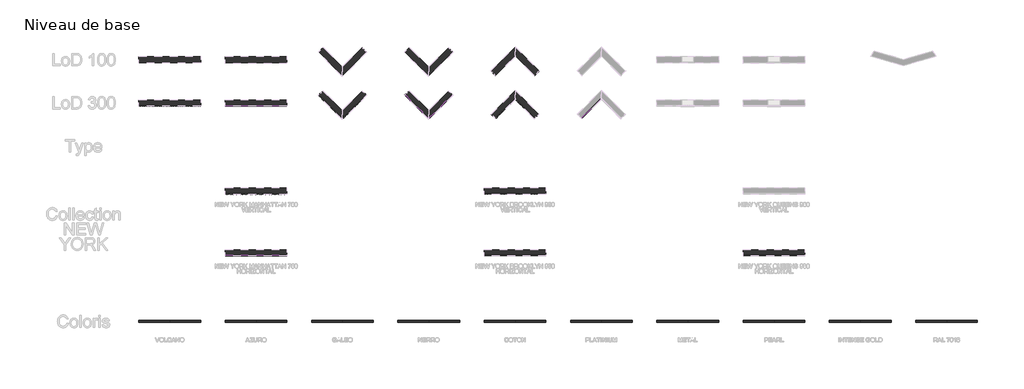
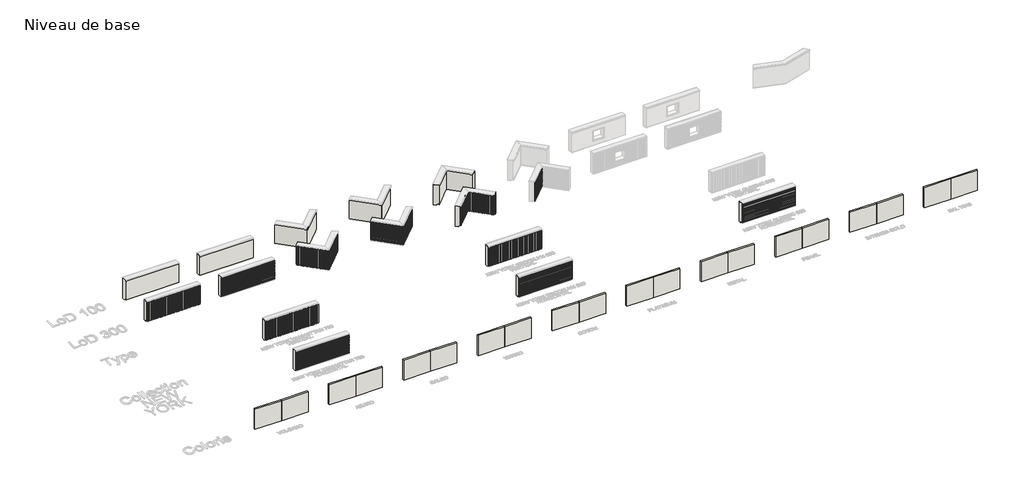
# One storey, part 1 of 12: 53 plates, 41 walls, 5 members.
"""IFC4 building model written with IfcOpenShell, lengths in millimetres."""

from ifc_helpers import new_model, si_unit, frame, origin, origin_with_axes, place, context, project, spatial, polyline, outline, extrude, faceted_brep, transform, mapped, element, save
from components import member_5640643a, member_f168e29d, member_682194e8, member_29dbe2e3, plate_ef704b0c, plate_e0caeaf7, plate_b1030144, plate_45eb5c23, plate_f3eb326f, plate_8cca460b, plate_1524a55d, plate_cfa7d90c, plate_ebf6ff52, plate_a7e1d6f4, plate_c92b519c, plate_d6473f5a, plate_74e9e570, plate_ab7f808c, plate_6982e660, plate_b545cc7a, plate_791323b8, plate_855ca4f3

model = new_model("IFC4")

# Units and contexts
model_context = context("Model", 3, world=origin())
ifc_project = project(units=[si_unit("LENGTHUNIT", "METRE", prefix="MILLI")], contexts=[model_context])

# Site, building, storey
site = spatial("IfcSite", under=ifc_project)
building = spatial("IfcBuilding", under=site)
storey = spatial("IfcBuildingStorey", under=building, Name="Niveau de base", Elevation=0.0)

# Members
placement = place(None, origin())
member_shape = member_5640643a(model_context)
element("IfcMember", 1, ObjectType="Meneau d'angle en L : ATELIERS 3S_Angle sortant", at=placement, inside=storey, context=model_context, shape_type="MappedRepresentation", body=[
    mapped(member_shape, transform((-10442.9704237, 40009.4162142, 100.0), x_axis=(0.7071067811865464, -0.7071067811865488, 0.0), y_axis=(-0.7071067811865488, -0.7071067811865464, 0.0), z_axis=(0.0, 0.0, -1.0))),
])
member_2_shape = member_f168e29d(model_context)
element("IfcMember", 2, ObjectType="Meneau d'angle en L : ATELIERS 3S_Angle rentrant", at=placement, inside=storey, context=model_context, shape_type="MappedRepresentation", body=[
    mapped(member_2_shape, transform((3557.0295763, 41631.1656168, 100.0), x_axis=(0.7071067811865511, 0.707106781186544, 0.0), y_axis=(0.707106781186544, -0.7071067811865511, 0.0), z_axis=(0.0, 0.0, -1.0))),
])
member_3_shape = member_682194e8(model_context)
element("IfcMember", 3, ObjectType="Meneau d'angle en L : ATELIERS 3S_Angle sortant", at=placement, inside=storey, context=model_context, shape_type="MappedRepresentation", body=[
    mapped(member_3_shape, transform((-3442.9704237, 40009.4162142, 2000.0), x_axis=(-0.7071067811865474, -0.7071067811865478, 0.0), y_axis=(0.7071067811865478, -0.7071067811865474, 0.0), z_axis=(0.0, 0.0, 1.0))),
])
member_4_shape = member_29dbe2e3(model_context)
element("IfcMember", 4, ObjectType="Meneau d'angle en L : ATELIERS 3S_Angle sortant", at=placement, inside=storey, context=model_context, shape_type="MappedRepresentation", body=[
    mapped(member_4_shape, transform((-3442.9704237, 40009.4162142, 1660.0), x_axis=(-0.7071067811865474, -0.7071067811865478, 0.0), y_axis=(0.7071067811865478, -0.7071067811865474, 0.0), z_axis=(0.0, 0.0, 1.0))),
])
element("IfcMember", 5, ObjectType="Meneau d'angle en L : ATELIERS 3S_Angle sortant", at=placement, inside=storey, context=model_context, shape_type="MappedRepresentation", body=[
    mapped(member_4_shape, transform((-3442.9704237, 40009.4162142, 880.0), x_axis=(-0.7071067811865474, -0.7071067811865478, 0.0), y_axis=(0.7071067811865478, -0.7071067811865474, 0.0), z_axis=(0.0, 0.0, 1.0))),
])

# Plates
plate_shape = plate_ef704b0c(model_context)
element("IfcPlate", 6, ObjectType="ATELIERS 3S_NEW YORK BROOKLYN 950_HORIZONTAL : AZURO", at=placement, inside=storey, context=model_context, shape_type="MappedRepresentation", body=[
    mapped(plate_shape, transform((3557.0295763, 28905.7785953, 100.0), x_axis=(1.0, 0.0, 0.0), y_axis=(0.0, 1.0, 0.0), z_axis=(0.0, 0.0, 1.0))),
])
element("IfcPlate", 7, ObjectType="ATELIERS 3S_NEW YORK BROOKLYN 950_HORIZONTAL : AZURO", at=placement, inside=storey, context=model_context, shape_type="MappedRepresentation", body=[
    mapped(plate_shape, transform((3557.0295763, 28905.7785953, 1050.0), x_axis=(1.0, 0.0, 0.0), y_axis=(0.0, 1.0, 0.0), z_axis=(0.0, 0.0, 1.0))),
])
plate_2_shape = plate_e0caeaf7(model_context)
element("IfcPlate", 8, ObjectType="ATELIERS 3S_NEW YORK BROOKLYN 950_VERTICAL : AZURO", at=placement, inside=storey, context=model_context, shape_type="MappedRepresentation", body=[
    mapped(plate_2_shape, transform((1532.0295764, 33905.7785953, 100.0), x_axis=(1.0, 0.0, 0.0), y_axis=(0.0, 1.0, 0.0), z_axis=(0.0, 0.0, 1.0))),
])
element("IfcPlate", 9, ObjectType="ATELIERS 3S_NEW YORK BROOKLYN 950_VERTICAL : AZURO", at=placement, inside=storey, context=model_context, shape_type="MappedRepresentation", body=[
    mapped(plate_2_shape, transform((2482.0295766, 33905.7785953, 100.0), x_axis=(1.0, 0.0, 0.0), y_axis=(0.0, 1.0, 0.0), z_axis=(0.0, 0.0, 1.0))),
])
element("IfcPlate", 10, ObjectType="ATELIERS 3S_NEW YORK BROOKLYN 950_VERTICAL : AZURO", at=placement, inside=storey, context=model_context, shape_type="MappedRepresentation", body=[
    mapped(plate_2_shape, transform((3432.0295766, 33905.7785953, 100.0), x_axis=(1.0, 0.0, 0.0), y_axis=(0.0, 1.0, 0.0), z_axis=(0.0, 0.0, 1.0))),
])
element("IfcPlate", 11, ObjectType="ATELIERS 3S_NEW YORK BROOKLYN 950_VERTICAL : AZURO", at=placement, inside=storey, context=model_context, shape_type="MappedRepresentation", body=[
    mapped(plate_2_shape, transform((4382.0295766, 33905.7785953, 100.0), x_axis=(1.0, 0.0, 0.0), y_axis=(0.0, 1.0, 0.0), z_axis=(0.0, 0.0, 1.0))),
])
element("IfcPlate", 12, ObjectType="ATELIERS 3S_NEW YORK BROOKLYN 950_VERTICAL : AZURO", at=placement, inside=storey, context=model_context, shape_type="MappedRepresentation", body=[
    mapped(plate_2_shape, transform((5332.0295766, 33905.7785953, 100.0), x_axis=(1.0, 0.0, 0.0), y_axis=(0.0, 1.0, 0.0), z_axis=(0.0, 0.0, 1.0))),
])
plate_3_shape = plate_b1030144(model_context)
element("IfcPlate", 13, ObjectType="ATELIERS 3S_NEW YORK BROOKLYN 950_VERTICAL : AZURO", at=placement, inside=storey, context=model_context, shape_type="MappedRepresentation", body=[
    mapped(plate_3_shape, transform((5932.0295764, 33905.7785953, 100.0), x_axis=(1.0, 0.0, 0.0), y_axis=(0.0, 1.0, 0.0), z_axis=(0.0, 0.0, 1.0))),
])
plate_4_shape = plate_45eb5c23(model_context)
element("IfcPlate", 14, ObjectType="ATELIERS 3S_NEW YORK MANHATTAN 780_HORIZONTAL : AZURO", at=placement, inside=storey, context=model_context, shape_type="MappedRepresentation", body=[
    mapped(plate_4_shape, transform((-17442.9704237, 41055.7785953, 100.0), x_axis=(1.0, 0.0, 0.0), y_axis=(0.0, 1.0, 0.0), z_axis=(0.0, 0.0, 1.0))),
])
element("IfcPlate", 15, ObjectType="ATELIERS 3S_NEW YORK MANHATTAN 780_HORIZONTAL : AZURO", at=placement, inside=storey, context=model_context, shape_type="MappedRepresentation", body=[
    mapped(plate_4_shape, transform((-17442.9704237, 28905.7785953, 100.0), x_axis=(1.0, 0.0, 0.0), y_axis=(0.0, 1.0, 0.0), z_axis=(0.0, 0.0, 1.0))),
])
element("IfcPlate", 16, ObjectType="ATELIERS 3S_NEW YORK MANHATTAN 780_HORIZONTAL : AZURO", at=placement, inside=storey, context=model_context, shape_type="MappedRepresentation", body=[
    mapped(plate_4_shape, transform((-17442.9704237, 41055.7785953, 880.0), x_axis=(1.0, 0.0, 0.0), y_axis=(0.0, 1.0, 0.0), z_axis=(0.0, 0.0, 1.0))),
])
element("IfcPlate", 17, ObjectType="ATELIERS 3S_NEW YORK MANHATTAN 780_HORIZONTAL : AZURO", at=placement, inside=storey, context=model_context, shape_type="MappedRepresentation", body=[
    mapped(plate_4_shape, transform((-17442.9704237, 28905.7785953, 880.0), x_axis=(1.0, 0.0, 0.0), y_axis=(0.0, 1.0, 0.0), z_axis=(0.0, 0.0, 1.0))),
])
plate_5_shape = plate_f3eb326f(model_context)
element("IfcPlate", 18, ObjectType="ATELIERS 3S_NEW YORK MANHATTAN 780_HORIZONTAL : AZURO", at=placement, inside=storey, context=model_context, shape_type="MappedRepresentation", body=[
    mapped(plate_5_shape, transform((-4407.4640733, 40973.9098637, 100.0), x_axis=(0.7071067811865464, -0.7071067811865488, 0.0), y_axis=(0.7071067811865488, 0.7071067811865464, 0.0), z_axis=(0.0, 0.0, 1.0))),
])
element("IfcPlate", 19, ObjectType="ATELIERS 3S_NEW YORK MANHATTAN 780_HORIZONTAL : AZURO", at=placement, inside=storey, context=model_context, shape_type="MappedRepresentation", body=[
    mapped(plate_5_shape, transform((-4407.4640733, 40973.9098637, 880.0), x_axis=(0.7071067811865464, -0.7071067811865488, 0.0), y_axis=(0.7071067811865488, 0.7071067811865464, 0.0), z_axis=(0.0, 0.0, 1.0))),
])
plate_6_shape = plate_8cca460b(model_context)
element("IfcPlate", 20, ObjectType="ATELIERS 3S_NEW YORK MANHATTAN 780_HORIZONTAL : AZURO", at=placement, inside=storey, context=model_context, shape_type="MappedRepresentation", body=[
    mapped(plate_6_shape, transform((-2481.8355314, 40970.5511065, 100.0), x_axis=(0.7071067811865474, 0.7071067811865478, 0.0), y_axis=(-0.7071067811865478, 0.7071067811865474, 0.0), z_axis=(0.0, 0.0, 1.0))),
])
element("IfcPlate", 21, ObjectType="ATELIERS 3S_NEW YORK MANHATTAN 780_HORIZONTAL : AZURO", at=placement, inside=storey, context=model_context, shape_type="MappedRepresentation", body=[
    mapped(plate_6_shape, transform((-2481.8355314, 40970.5511065, 880.0), x_axis=(0.7071067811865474, 0.7071067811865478, 0.0), y_axis=(-0.7071067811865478, 0.7071067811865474, 0.0), z_axis=(0.0, 0.0, 1.0))),
])
plate_7_shape = plate_1524a55d(model_context)
element("IfcPlate", 22, ObjectType="ATELIERS 3S_NEW YORK MANHATTAN 780_HORIZONTAL : AZURO", at=placement, inside=storey, context=model_context, shape_type="MappedRepresentation", body=[
    mapped(plate_7_shape, transform((-17442.9704237, 28905.7785953, 1660.0), x_axis=(1.0, 0.0, 0.0), y_axis=(0.0, 1.0, 0.0), z_axis=(0.0, 0.0, 1.0))),
])
element("IfcPlate", 23, ObjectType="ATELIERS 3S_NEW YORK MANHATTAN 780_HORIZONTAL : AZURO", at=placement, inside=storey, context=model_context, shape_type="MappedRepresentation", body=[
    mapped(plate_7_shape, transform((-17442.9704237, 41055.7785953, 1660.0), x_axis=(1.0, 0.0, 0.0), y_axis=(0.0, 1.0, 0.0), z_axis=(0.0, 0.0, 1.0))),
])
plate_8_shape = plate_cfa7d90c(model_context)
element("IfcPlate", 24, ObjectType="ATELIERS 3S_NEW YORK MANHATTAN 780_HORIZONTAL : AZURO", at=placement, inside=storey, context=model_context, shape_type="MappedRepresentation", body=[
    mapped(plate_8_shape, transform((-4407.4640733, 40973.9098637, 1660.0), x_axis=(0.7071067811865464, -0.7071067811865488, 0.0), y_axis=(0.7071067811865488, 0.7071067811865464, 0.0), z_axis=(0.0, 0.0, 1.0))),
])
plate_9_shape = plate_ebf6ff52(model_context)
element("IfcPlate", 25, ObjectType="ATELIERS 3S_NEW YORK MANHATTAN 780_HORIZONTAL : AZURO", at=placement, inside=storey, context=model_context, shape_type="MappedRepresentation", body=[
    mapped(plate_9_shape, transform((-2481.8355314, 40970.5511065, 1660.0), x_axis=(0.7071067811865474, 0.7071067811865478, 0.0), y_axis=(-0.7071067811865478, 0.7071067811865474, 0.0), z_axis=(0.0, 0.0, 1.0))),
])
plate_10_shape = plate_a7e1d6f4(model_context)
element("IfcPlate", 26, ObjectType="ATELIERS 3S_NEW YORK MANHATTAN 780_HORIZONTAL : AZURO", at=placement, inside=storey, context=model_context, shape_type="MappedRepresentation", body=[
    mapped(plate_10_shape, transform((9731.6591859, 40805.7952265, 880.0), x_axis=(0.7071067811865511, 0.707106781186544, 0.0), y_axis=(-0.707106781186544, 0.7071067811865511, 0.0), z_axis=(0.0, 0.0, 1.0))),
])
element("IfcPlate", 27, ObjectType="ATELIERS 3S_NEW YORK MANHATTAN 780_HORIZONTAL : AZURO", at=placement, inside=storey, context=model_context, shape_type="MappedRepresentation", body=[
    mapped(plate_10_shape, transform((9731.6591859, 40805.7952265, 100.0), x_axis=(0.7071067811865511, 0.707106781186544, 0.0), y_axis=(-0.707106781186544, 0.7071067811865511, 0.0), z_axis=(0.0, 0.0, 1.0))),
])
plate_11_shape = plate_c92b519c(model_context)
element("IfcPlate", 28, ObjectType="ATELIERS 3S_NEW YORK MANHATTAN 780_HORIZONTAL : AZURO", at=placement, inside=storey, context=model_context, shape_type="MappedRepresentation", body=[
    mapped(plate_11_shape, transform((9731.6591859, 40805.7952265, 1660.0), x_axis=(0.7071067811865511, 0.707106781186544, 0.0), y_axis=(-0.707106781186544, 0.7071067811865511, 0.0), z_axis=(0.0, 0.0, 1.0))),
])
plate_12_shape = plate_d6473f5a(model_context)
element("IfcPlate", 29, ObjectType="ATELIERS 3S_NEW YORK MANHATTAN 780_VERTICAL : AZURO", at=placement, inside=storey, context=model_context, shape_type="MappedRepresentation", body=[
    mapped(plate_12_shape, transform((-26552.9704236, 41055.7785953, 100.0), x_axis=(1.0, 0.0, 0.0), y_axis=(0.0, 1.0, 0.0), z_axis=(0.0, 0.0, 1.0))),
])
element("IfcPlate", 30, ObjectType="ATELIERS 3S_NEW YORK MANHATTAN 780_VERTICAL : AZURO", at=placement, inside=storey, context=model_context, shape_type="MappedRepresentation", body=[
    mapped(plate_12_shape, transform((-12087.7007967, 41654.1465871, 100.0), x_axis=(0.7071067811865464, -0.7071067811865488, 0.0), y_axis=(0.7071067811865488, 0.7071067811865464, 0.0), z_axis=(0.0, 0.0, 1.0))),
])
element("IfcPlate", 31, ObjectType="ATELIERS 3S_NEW YORK MANHATTAN 780_VERTICAL : AZURO", at=placement, inside=storey, context=model_context, shape_type="MappedRepresentation", body=[
    mapped(plate_12_shape, transform((-10158.7134976, 40293.6731403, 100.0), x_axis=(0.7071067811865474, 0.7071067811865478, 0.0), y_axis=(-0.7071067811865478, 0.7071067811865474, 0.0), z_axis=(0.0, 0.0, 1.0))),
])
element("IfcPlate", 32, ObjectType="ATELIERS 3S_NEW YORK MANHATTAN 780_VERTICAL : AZURO", at=placement, inside=storey, context=model_context, shape_type="MappedRepresentation", body=[
    mapped(plate_12_shape, transform((-11536.1575072, 41102.6032977, 100.0), x_axis=(0.7071067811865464, -0.7071067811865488, 0.0), y_axis=(0.7071067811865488, 0.7071067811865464, 0.0), z_axis=(0.0, 0.0, 1.0))),
])
element("IfcPlate", 33, ObjectType="ATELIERS 3S_NEW YORK MANHATTAN 780_VERTICAL : AZURO", at=placement, inside=storey, context=model_context, shape_type="MappedRepresentation", body=[
    mapped(plate_12_shape, transform((-10984.6142179, 40551.0600084, 100.0), x_axis=(0.7071067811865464, -0.7071067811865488, 0.0), y_axis=(0.7071067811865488, 0.7071067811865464, 0.0), z_axis=(0.0, 0.0, 1.0))),
])
element("IfcPlate", 34, ObjectType="ATELIERS 3S_NEW YORK MANHATTAN 780_VERTICAL : AZURO", at=placement, inside=storey, context=model_context, shape_type="MappedRepresentation", body=[
    mapped(plate_12_shape, transform((-9607.1702081, 40845.2164298, 100.0), x_axis=(0.7071067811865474, 0.7071067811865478, 0.0), y_axis=(-0.7071067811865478, 0.7071067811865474, 0.0), z_axis=(0.0, 0.0, 1.0))),
])
element("IfcPlate", 35, ObjectType="ATELIERS 3S_NEW YORK MANHATTAN 780_VERTICAL : AZURO", at=placement, inside=storey, context=model_context, shape_type="MappedRepresentation", body=[
    mapped(plate_12_shape, transform((2769.3126223, 40843.4486628, 100.0), x_axis=(0.7071067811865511, 0.707106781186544, 0.0), y_axis=(-0.707106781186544, 0.7071067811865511, 0.0), z_axis=(0.0, 0.0, 1.0))),
])
element("IfcPlate", 36, ObjectType="ATELIERS 3S_NEW YORK MANHATTAN 780_VERTICAL : AZURO", at=placement, inside=storey, context=model_context, shape_type="MappedRepresentation", body=[
    mapped(plate_12_shape, transform((4420.0534029, 40768.1417902, 100.0), x_axis=(0.7071067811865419, -0.7071067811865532, 0.0), y_axis=(0.7071067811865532, 0.7071067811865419, 0.0), z_axis=(0.0, 0.0, 1.0))),
])
element("IfcPlate", 37, ObjectType="ATELIERS 3S_NEW YORK MANHATTAN 780_VERTICAL : AZURO", at=placement, inside=storey, context=model_context, shape_type="MappedRepresentation", body=[
    mapped(plate_12_shape, transform((-9055.6269188, 41396.7597191, 100.0), x_axis=(0.7071067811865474, 0.7071067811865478, 0.0), y_axis=(-0.7071067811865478, 0.7071067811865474, 0.0), z_axis=(0.0, 0.0, 1.0))),
])
element("IfcPlate", 38, ObjectType="ATELIERS 3S_NEW YORK MANHATTAN 780_VERTICAL : AZURO", at=placement, inside=storey, context=model_context, shape_type="MappedRepresentation", body=[
    mapped(plate_12_shape, transform((-25772.9704234, 41055.7785953, 100.0), x_axis=(1.0, 0.0, 0.0), y_axis=(0.0, 1.0, 0.0), z_axis=(0.0, 0.0, 1.0))),
])
element("IfcPlate", 39, ObjectType="ATELIERS 3S_NEW YORK MANHATTAN 780_VERTICAL : AZURO", at=placement, inside=storey, context=model_context, shape_type="MappedRepresentation", body=[
    mapped(plate_12_shape, transform((-24992.9704234, 41055.7785953, 100.0), x_axis=(1.0, 0.0, 0.0), y_axis=(0.0, 1.0, 0.0), z_axis=(0.0, 0.0, 1.0))),
])
element("IfcPlate", 40, ObjectType="ATELIERS 3S_NEW YORK MANHATTAN 780_VERTICAL : AZURO", at=placement, inside=storey, context=model_context, shape_type="MappedRepresentation", body=[
    mapped(plate_12_shape, transform((-24212.9704234, 41055.7785953, 100.0), x_axis=(1.0, 0.0, 0.0), y_axis=(0.0, 1.0, 0.0), z_axis=(0.0, 0.0, 1.0))),
])
element("IfcPlate", 41, ObjectType="ATELIERS 3S_NEW YORK MANHATTAN 780_VERTICAL : AZURO", at=placement, inside=storey, context=model_context, shape_type="MappedRepresentation", body=[
    mapped(plate_12_shape, transform((-23432.9704234, 41055.7785953, 100.0), x_axis=(1.0, 0.0, 0.0), y_axis=(0.0, 1.0, 0.0), z_axis=(0.0, 0.0, 1.0))),
])
element("IfcPlate", 42, ObjectType="ATELIERS 3S_NEW YORK MANHATTAN 780_VERTICAL : AZURO", at=placement, inside=storey, context=model_context, shape_type="MappedRepresentation", body=[
    mapped(plate_12_shape, transform((-22652.9704234, 41055.7785953, 100.0), x_axis=(1.0, 0.0, 0.0), y_axis=(0.0, 1.0, 0.0), z_axis=(0.0, 0.0, 1.0))),
])
element("IfcPlate", 43, ObjectType="ATELIERS 3S_NEW YORK MANHATTAN 780_VERTICAL : AZURO", at=placement, inside=storey, context=model_context, shape_type="MappedRepresentation", body=[
    mapped(plate_12_shape, transform((-19552.9704236, 33905.7785953, 100.0), x_axis=(1.0, 0.0, 0.0), y_axis=(0.0, 1.0, 0.0), z_axis=(0.0, 0.0, 1.0))),
])
element("IfcPlate", 44, ObjectType="ATELIERS 3S_NEW YORK MANHATTAN 780_VERTICAL : AZURO", at=placement, inside=storey, context=model_context, shape_type="MappedRepresentation", body=[
    mapped(plate_12_shape, transform((-18772.9704234, 33905.7785953, 100.0), x_axis=(1.0, 0.0, 0.0), y_axis=(0.0, 1.0, 0.0), z_axis=(0.0, 0.0, 1.0))),
])
element("IfcPlate", 45, ObjectType="ATELIERS 3S_NEW YORK MANHATTAN 780_VERTICAL : AZURO", at=placement, inside=storey, context=model_context, shape_type="MappedRepresentation", body=[
    mapped(plate_12_shape, transform((-17992.9704234, 33905.7785953, 100.0), x_axis=(1.0, 0.0, 0.0), y_axis=(0.0, 1.0, 0.0), z_axis=(0.0, 0.0, 1.0))),
])
element("IfcPlate", 46, ObjectType="ATELIERS 3S_NEW YORK MANHATTAN 780_VERTICAL : AZURO", at=placement, inside=storey, context=model_context, shape_type="MappedRepresentation", body=[
    mapped(plate_12_shape, transform((-17212.9704234, 33905.7785953, 100.0), x_axis=(1.0, 0.0, 0.0), y_axis=(0.0, 1.0, 0.0), z_axis=(0.0, 0.0, 1.0))),
])
element("IfcPlate", 47, ObjectType="ATELIERS 3S_NEW YORK MANHATTAN 780_VERTICAL : AZURO", at=placement, inside=storey, context=model_context, shape_type="MappedRepresentation", body=[
    mapped(plate_12_shape, transform((-16432.9704234, 33905.7785953, 100.0), x_axis=(1.0, 0.0, 0.0), y_axis=(0.0, 1.0, 0.0), z_axis=(0.0, 0.0, 1.0))),
])
element("IfcPlate", 48, ObjectType="ATELIERS 3S_NEW YORK MANHATTAN 780_VERTICAL : AZURO", at=placement, inside=storey, context=model_context, shape_type="MappedRepresentation", body=[
    mapped(plate_12_shape, transform((-15652.9704234, 33905.7785953, 100.0), x_axis=(1.0, 0.0, 0.0), y_axis=(0.0, 1.0, 0.0), z_axis=(0.0, 0.0, 1.0))),
])
element("IfcPlate", 49, ObjectType="ATELIERS 3S_NEW YORK MANHATTAN 780_VERTICAL : AZURO", at=placement, inside=storey, context=model_context, shape_type="MappedRepresentation", body=[
    mapped(plate_12_shape, transform((2217.7693328, 40291.9053734, 100.0), x_axis=(0.7071067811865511, 0.707106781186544, 0.0), y_axis=(-0.707106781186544, 0.7071067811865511, 0.0), z_axis=(0.0, 0.0, 1.0))),
])
element("IfcPlate", 50, ObjectType="ATELIERS 3S_NEW YORK MANHATTAN 780_VERTICAL : AZURO", at=placement, inside=storey, context=model_context, shape_type="MappedRepresentation", body=[
    mapped(plate_12_shape, transform((3868.5101135, 41319.6850796, 100.0), x_axis=(0.7071067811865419, -0.7071067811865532, 0.0), y_axis=(0.7071067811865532, 0.7071067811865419, 0.0), z_axis=(0.0, 0.0, 1.0))),
])
plate_13_shape = plate_74e9e570(model_context)
element("IfcPlate", 51, ObjectType="ATELIERS 3S_NEW YORK MANHATTAN 780_VERTICAL : AZURO", at=placement, inside=storey, context=model_context, shape_type="MappedRepresentation", body=[
    mapped(plate_13_shape, transform((-22102.9704236, 41055.7785953, 100.0), x_axis=(1.0, 0.0, 0.0), y_axis=(0.0, 1.0, 0.0), z_axis=(0.0, 0.0, 1.0))),
])
element("IfcPlate", 52, ObjectType="ATELIERS 3S_NEW YORK MANHATTAN 780_VERTICAL : AZURO", at=placement, inside=storey, context=model_context, shape_type="MappedRepresentation", body=[
    mapped(plate_13_shape, transform((-15102.9704236, 33905.7785953, 100.0), x_axis=(1.0, 0.0, 0.0), y_axis=(0.0, 1.0, 0.0), z_axis=(0.0, 0.0, 1.0))),
])
plate_14_shape = plate_ab7f808c(model_context)
element("IfcPlate", 53, ObjectType="ATELIERS 3S_NEW YORK MANHATTAN 780_VERTICAL : AZURO", at=placement, inside=storey, context=model_context, shape_type="MappedRepresentation", body=[
    mapped(plate_14_shape, transform((-10580.1491392, 40146.5949296, 100.0), x_axis=(0.7071067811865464, -0.7071067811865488, 0.0), y_axis=(0.7071067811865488, 0.7071067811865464, 0.0), z_axis=(0.0, 0.0, 1.0))),
])
plate_15_shape = plate_6982e660(model_context)
element("IfcPlate", 54, ObjectType="ATELIERS 3S_NEW YORK MANHATTAN 780_VERTICAL : AZURO", at=placement, inside=storey, context=model_context, shape_type="MappedRepresentation", body=[
    mapped(plate_15_shape, transform((-8654.5205973, 41797.8660406, 100.0), x_axis=(0.7071067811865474, 0.7071067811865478, 0.0), y_axis=(-0.7071067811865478, 0.7071067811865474, 0.0), z_axis=(0.0, 0.0, 1.0))),
])
plate_16_shape = plate_b545cc7a(model_context)
element("IfcPlate", 55, ObjectType="ATELIERS 3S_NEW YORK MANHATTAN 780_VERTICAL : AZURO", at=placement, inside=storey, context=model_context, shape_type="MappedRepresentation", body=[
    mapped(plate_16_shape, transform((3283.2024754, 41357.3385159, 100.0), x_axis=(0.7071067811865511, 0.707106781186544, 0.0), y_axis=(-0.707106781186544, 0.7071067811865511, 0.0), z_axis=(0.0, 0.0, 1.0))),
])
element("IfcPlate", 56, ObjectType="ATELIERS 3S_NEW YORK MANHATTAN 780_VERTICAL : AZURO", at=placement, inside=storey, context=model_context, shape_type="MappedRepresentation", body=[
    mapped(plate_16_shape, transform((4933.9432561, 40254.2519371, 100.0), x_axis=(0.7071067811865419, -0.7071067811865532, 0.0), y_axis=(0.7071067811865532, 0.7071067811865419, 0.0), z_axis=(0.0, 0.0, 1.0))),
])
plate_17_shape = plate_791323b8(model_context)
element("IfcPlate", 57, ObjectType="ATELIERS 3S_NEW YORK QUEENS 980_HORIZONTAL : AZURO", at=placement, inside=storey, context=model_context, shape_type="MappedRepresentation", body=[
    mapped(plate_17_shape, transform((24557.0295763, 28905.7785953, 100.0), x_axis=(1.0, 0.0, 0.0), y_axis=(0.0, 1.0, 0.0), z_axis=(0.0, 0.0, 1.0))),
])
plate_18_shape = plate_855ca4f3(model_context)
element("IfcPlate", 58, ObjectType="ATELIERS 3S_NEW YORK QUEENS 980_HORIZONTAL : AZURO", at=placement, inside=storey, context=model_context, shape_type="MappedRepresentation", body=[
    mapped(plate_18_shape, transform((24557.0295763, 28905.7785953, 1080.0), x_axis=(1.0, 0.0, 0.0), y_axis=(0.0, 1.0, 0.0), z_axis=(0.0, 0.0, 1.0))),
])

# Walls
element("IfcWall", 59, ObjectType="ATELIERS 3S_NEW YORK MANHATTAN 780_VERTICAL_AZURO_LoD 100", at=placement, inside=storey, context=model_context, shape_type="SweptSolid", body=[
    extrude(outline(polyline([(44525.7785953, 100.0), (44525.7785953, 2000.0), (45017.7785953, 2000.0), (45017.7785953, 0.0), (44767.7785953, 0.0), (44767.7785953, 100.0), (44586.7785953, 100.0), (44586.7785953, 130.0), (44585.7785953, 130.0), (44585.7785953, 100.0), (44525.7785953, 100.0)])), frame((-26942.9704237, 0.0, 0.0), z_axis=(1.0, 0.0, 0.0), x_axis=(0.0, 1.0, 0.0)), (0.0, 0.0, 1.0), 5000.0),
])
element("IfcWall", 60, ObjectType="ATELIERS 3S_Mur de base_LoD 300", at=placement, inside=storey, context=model_context, shape_type="Brep", body=[
    faceted_brep([(3557.0295763, 41631.1656168, 2000.0), (1941.9976881, 40016.1337286, 2000.0), (1941.9976881, 40016.1337286, 130.0), (3557.0295763, 41631.1656168, 130.0), (3557.0295763, 42242.1058758, 0.0), (1636.5275586, 40321.6038581, 0.0), (1636.5275586, 40321.6038581, 2000.0), (3557.0295763, 42242.1058758, 2000.0), (1813.3042539, 40144.8271628, 0.0), (1813.3042539, 40144.8271628, 100.0), (1941.2905813, 40016.8408354, 100.0), (1941.2905813, 40016.8408354, 130.0), (3557.0295763, 41632.5798304, 130.0), (3557.0295763, 41632.5798304, 100.0), (3557.0295763, 41888.5524852, 100.0), (3557.0295763, 41888.5524852, 0.0)], [[[0, 1, 2, 3]], [[4, 5, 6, 7]], [[1, 0, 7, 6]], [[6, 5, 8, 9, 10, 11, 2, 1]], [[4, 7, 0, 3, 12, 13, 14, 15]], [[5, 4, 15, 8]], [[9, 8, 15, 14]], [[9, 14, 13, 10]], [[11, 12, 3, 2]], [[12, 11, 10, 13]]]),
])
element("IfcWall", 61, ObjectType="ATELIERS 3S_Mur de base_LoD 300", at=placement, inside=storey, context=model_context, shape_type="Brep", body=[
    faceted_brep([(5172.0614645, 40016.1337286, 2000.0), (3557.0295763, 41631.1656168, 2000.0), (3557.0295763, 41631.1656168, 130.0), (5172.0614645, 40016.1337286, 130.0), (5477.531594, 40321.6038581, 0.0), (3557.0295763, 42242.1058758, 0.0), (3557.0295763, 42242.1058758, 2000.0), (5477.531594, 40321.6038581, 2000.0), (5172.7685713, 40016.8408354, 130.0), (5172.7685713, 40016.8408354, 100.0), (5300.7548987, 40144.8271628, 100.0), (5300.7548987, 40144.8271628, 0.0), (3557.0295763, 41888.5524852, 0.0), (3557.0295763, 41888.5524852, 100.0), (3557.0295763, 41632.5798304, 100.0), (3557.0295763, 41632.5798304, 130.0)], [[[0, 1, 2, 3]], [[4, 5, 6, 7]], [[4, 7, 0, 3, 8, 9, 10, 11]], [[1, 0, 7, 6]], [[1, 6, 5, 12, 13, 14, 15, 2]], [[5, 4, 11, 12]], [[13, 12, 11, 10]], [[13, 10, 9, 14]], [[15, 8, 3, 2]], [[8, 15, 14, 9]]]),
])
element("IfcWall", 62, ObjectType="ATELIERS 3S_NEW YORK MANHATTAN 780_VERTICAL_AZURO_LoD 100", at=placement, inside=storey, context=model_context, shape_type="Brep", body=[
    faceted_brep([(3557.0295763, 45088.73921, 2000.0), (1963.2108915, 43494.9205252, 2000.0), (1963.2108915, 43494.9205252, 100.0), (3557.0295763, 45088.73921, 100.0), (3557.0295763, 45784.5322826, 0.0), (1615.3143551, 43842.8170615, 0.0), (1615.3143551, 43842.8170615, 2000.0), (3557.0295763, 45784.5322826, 2000.0), (1792.0910504, 43666.0403662, 0.0), (1792.0910504, 43666.0403662, 100.0), (1920.0773778, 43538.0540388, 100.0), (1920.0773778, 43538.0540388, 130.0), (1920.7844846, 43537.346932, 130.0), (1920.7844846, 43537.346932, 100.0), (3557.0295763, 45173.5920237, 100.0), (3557.0295763, 45173.5920237, 130.0), (3557.0295763, 45175.0062373, 130.0), (3557.0295763, 45175.0062373, 100.0), (3557.0295763, 45430.9788921, 100.0), (3557.0295763, 45430.9788921, 0.0)], [[[0, 1, 2, 3]], [[4, 5, 6, 7]], [[1, 0, 7, 6]], [[2, 1, 6, 5, 8, 9, 10, 11, 12, 13]], [[0, 3, 14, 15, 16, 17, 18, 19, 4, 7]], [[5, 4, 19, 8]], [[9, 8, 19, 18]], [[3, 2, 13, 14]], [[9, 18, 17, 10]], [[15, 12, 11, 16]], [[16, 11, 10, 17]], [[12, 15, 14, 13]]]),
])
element("IfcWall", 63, ObjectType="ATELIERS 3S_NEW YORK MANHATTAN 780_VERTICAL_AZURO_LoD 100", at=placement, inside=storey, context=model_context, shape_type="Brep", body=[
    faceted_brep([(5150.8482611, 43494.9205252, 100.0), (5150.8482611, 43494.9205252, 2000.0), (3557.0295763, 45088.73921, 2000.0), (3557.0295763, 45088.73921, 100.0), (5498.7447974, 43842.8170615, 0.0), (3557.0295763, 45784.5322826, 0.0), (3557.0295763, 45784.5322826, 2000.0), (5498.7447974, 43842.8170615, 2000.0), (5193.2746679, 43537.346932, 100.0), (5193.2746679, 43537.346932, 130.0), (5193.9817747, 43538.0540388, 130.0), (5193.9817747, 43538.0540388, 100.0), (5321.9681021, 43666.0403662, 100.0), (5321.9681021, 43666.0403662, 0.0), (3557.0295763, 45430.9788921, 0.0), (3557.0295763, 45430.9788921, 100.0), (3557.0295763, 45175.0062373, 100.0), (3557.0295763, 45175.0062373, 130.0), (3557.0295763, 45173.5920237, 130.0), (3557.0295763, 45173.5920237, 100.0)], [[[0, 1, 2, 3]], [[4, 5, 6, 7]], [[1, 0, 8, 9, 10, 11, 12, 13, 4, 7]], [[2, 1, 7, 6]], [[3, 2, 6, 5, 14, 15, 16, 17, 18, 19]], [[5, 4, 13, 14]], [[15, 14, 13, 12]], [[0, 3, 19, 8]], [[15, 12, 11, 16]], [[9, 18, 17, 10]], [[10, 17, 16, 11]], [[18, 9, 8, 19]]]),
])
element("IfcWall", 64, ObjectType="ATELIERS 3S_Mur de base_LoD 300", at=placement, inside=storey, context=model_context, shape_type="Brep", body=[
    faceted_brep([(-8827.9385355, 42235.3883614, 0.0), (-10442.9704237, 40620.3564731, 0.0), (-10442.9704237, 40620.3564731, 2000.0), (-8827.9385355, 42235.3883614, 2000.0), (-8522.468406, 41929.9182319, 2000.0), (-10442.9704237, 40009.4162142, 2000.0), (-10442.9704237, 40009.4162142, 130.0), (-8522.468406, 41929.9182319, 130.0), (-8523.1755128, 41930.6253387, 130.0), (-8523.1755128, 41930.6253387, 100.0), (-8651.1618402, 42058.6116661, 100.0), (-8651.1618402, 42058.6116661, 0.0), (-10442.9704237, 40266.8030825, 0.0), (-10442.9704237, 40266.8030825, 100.0), (-10442.9704237, 40010.8304277, 100.0), (-10442.9704237, 40010.8304277, 130.0)], [[[0, 1, 2, 3]], [[4, 5, 6, 7]], [[3, 2, 5, 4]], [[0, 3, 4, 7, 8, 9, 10, 11]], [[2, 1, 12, 13, 14, 15, 6, 5]], [[1, 0, 11, 12]], [[12, 11, 10, 13]], [[13, 10, 9, 14]], [[8, 15, 14, 9]], [[15, 8, 7, 6]]]),
])
element("IfcWall", 65, ObjectType="ATELIERS 3S_Mur de base_LoD 300", at=placement, inside=storey, context=model_context, shape_type="Brep", body=[
    faceted_brep([(-10442.9704237, 40620.3564731, 0.0), (-12058.002312, 42235.3883614, 0.0), (-12058.002312, 42235.3883614, 2000.0), (-10442.9704237, 40620.3564731, 2000.0), (-10442.9704237, 40009.4162142, 2000.0), (-12363.4724414, 41929.9182319, 2000.0), (-12363.4724414, 41929.9182319, 130.0), (-10442.9704237, 40009.4162142, 130.0), (-12234.7790072, 42058.6116661, 0.0), (-12234.7790072, 42058.6116661, 100.0), (-12362.7653346, 41930.6253387, 100.0), (-12362.7653346, 41930.6253387, 130.0), (-10442.9704237, 40010.8304277, 130.0), (-10442.9704237, 40010.8304277, 100.0), (-10442.9704237, 40266.8030825, 100.0), (-10442.9704237, 40266.8030825, 0.0)], [[[0, 1, 2, 3]], [[4, 5, 6, 7]], [[2, 1, 8, 9, 10, 11, 6, 5]], [[3, 2, 5, 4]], [[0, 3, 4, 7, 12, 13, 14, 15]], [[1, 0, 15, 8]], [[8, 15, 14, 9]], [[9, 14, 13, 10]], [[11, 12, 7, 6]], [[12, 11, 10, 13]]]),
])
element("IfcWall", 66, ObjectType="ATELIERS 3S_NEW YORK MANHATTAN 780_VERTICAL_AZURO_LoD 100", at=placement, inside=storey, context=model_context, shape_type="Brep", body=[
    faceted_brep([(-8849.1517389, 45756.6015648, 0.0), (-10442.9704237, 44162.78288, 0.0), (-10442.9704237, 44162.78288, 2000.0), (-8849.1517389, 45756.6015648, 2000.0), (-8501.2552026, 45408.7050284, 2000.0), (-10442.9704237, 43466.9898073, 2000.0), (-10442.9704237, 43466.9898073, 100.0), (-8501.2552026, 45408.7050284, 100.0), (-8543.6816095, 45451.1314353, 100.0), (-8543.6816095, 45451.1314353, 130.0), (-8544.3887162, 45451.8385421, 130.0), (-8544.3887162, 45451.8385421, 100.0), (-8672.3750436, 45579.8248695, 100.0), (-8672.3750436, 45579.8248695, 0.0), (-10442.9704237, 43809.2294894, 0.0), (-10442.9704237, 43809.2294894, 100.0), (-10442.9704237, 43553.2568346, 100.0), (-10442.9704237, 43553.2568346, 130.0), (-10442.9704237, 43551.8426211, 130.0), (-10442.9704237, 43551.8426211, 100.0)], [[[0, 1, 2, 3]], [[4, 5, 6, 7]], [[3, 2, 5, 4]], [[0, 3, 4, 7, 8, 9, 10, 11, 12, 13]], [[2, 1, 14, 15, 16, 17, 18, 19, 6, 5]], [[1, 0, 13, 14]], [[14, 13, 12, 15]], [[7, 6, 19, 8]], [[15, 12, 11, 16]], [[18, 9, 8, 19]], [[10, 17, 16, 11]], [[9, 18, 17, 10]]]),
])
element("IfcWall", 67, ObjectType="ATELIERS 3S_NEW YORK MANHATTAN 780_VERTICAL_AZURO_LoD 100", at=placement, inside=storey, context=model_context, shape_type="Brep", body=[
    faceted_brep([(-10442.9704237, 44162.78288, 0.0), (-12036.7891085, 45756.6015648, 0.0), (-12036.7891085, 45756.6015648, 2000.0), (-10442.9704237, 44162.78288, 2000.0), (-12384.6856449, 45408.7050284, 2000.0), (-12384.6856449, 45408.7050284, 100.0), (-10442.9704237, 43466.9898073, 100.0), (-10442.9704237, 43466.9898073, 2000.0), (-12213.5658038, 45579.8248695, 0.0), (-12213.5658038, 45579.8248695, 100.0), (-12341.5521312, 45451.8385421, 100.0), (-12341.5521312, 45451.8385421, 130.0), (-12342.259238, 45451.1314353, 130.0), (-12342.259238, 45451.1314353, 100.0), (-10442.9704237, 43551.8426211, 100.0), (-10442.9704237, 43551.8426211, 130.0), (-10442.9704237, 43553.2568346, 130.0), (-10442.9704237, 43553.2568346, 100.0), (-10442.9704237, 43809.2294894, 100.0), (-10442.9704237, 43809.2294894, 0.0)], [[[0, 1, 2, 3]], [[4, 5, 6, 7]], [[2, 1, 8, 9, 10, 11, 12, 13, 5, 4]], [[3, 2, 4, 7]], [[0, 3, 7, 6, 14, 15, 16, 17, 18, 19]], [[1, 0, 19, 8]], [[8, 19, 18, 9]], [[6, 5, 13, 14]], [[9, 18, 17, 10]], [[11, 16, 15, 12]], [[12, 15, 14, 13]], [[16, 11, 10, 17]]]),
])
element("IfcWall", 68, ObjectType="ATELIERS 3S_Mur de base_LoD 300", at=placement, inside=storey, context=model_context, shape_type="SweptSolid", body=[
    extrude(outline(polyline([(41487.7785953, 2000.0), (41487.7785953, 0.0), (41237.7785953, 0.0), (41237.7785953, 100.0), (41056.7785953, 100.0), (41056.7785953, 130.0), (41055.7785953, 130.0), (41055.7785953, 2000.0), (41487.7785953, 2000.0)])), frame((-26942.9704237, 0.0, 0.0), z_axis=(1.0, 0.0, 0.0), x_axis=(0.0, 1.0, 0.0)), (0.0, 0.0, 1.0), 5000.0),
])
element("IfcWall", 69, ObjectType="Générique - 150 mm", at=placement, inside=storey, context=model_context, shape_type="SweptSolid", body=[
    extrude(outline(polyline([(-24442.9704237, 23446.7785953), (-26942.9704237, 23446.7785953), (-26942.9704237, 23596.7785953), (-24442.9704237, 23596.7785953), (-24442.9704237, 23446.7785953)])), origin_with_axes(), (0.0, 0.0, 1.0), 2000.0),
])
element("IfcWall", 70, ObjectType="Générique - 150 mm", at=placement, inside=storey, context=model_context, shape_type="SweptSolid", body=[
    extrude(outline(polyline([(-17442.9704237, 23446.7785953), (-19942.9704237, 23446.7785953), (-19942.9704237, 23596.7785953), (-17442.9704237, 23596.7785953), (-17442.9704237, 23446.7785953)])), origin_with_axes(), (0.0, 0.0, 1.0), 2000.0),
])
element("IfcWall", 71, ObjectType="Générique - 150 mm", at=placement, inside=storey, context=model_context, shape_type="SweptSolid", body=[
    extrude(outline(polyline([(-10442.9704237, 23446.7785953), (-12942.9704237, 23446.7785953), (-12942.9704237, 23596.7785953), (-10442.9704237, 23596.7785953), (-10442.9704237, 23446.7785953)])), origin_with_axes(), (0.0, 0.0, 1.0), 2000.0),
])
element("IfcWall", 72, ObjectType="Générique - 150 mm", at=placement, inside=storey, context=model_context, shape_type="SweptSolid", body=[
    extrude(outline(polyline([(-3442.9704237, 23446.7785953), (-5942.9704237, 23446.7785953), (-5942.9704237, 23596.7785953), (-3442.9704237, 23596.7785953), (-3442.9704237, 23446.7785953)])), origin_with_axes(), (0.0, 0.0, 1.0), 2000.0),
])
element("IfcWall", 73, ObjectType="Générique - 150 mm", at=placement, inside=storey, context=model_context, shape_type="SweptSolid", body=[
    extrude(outline(polyline([(3557.0295763, 23446.7785953), (1057.0295763, 23446.7785953), (1057.0295763, 23596.7785953), (3557.0295763, 23596.7785953), (3557.0295763, 23446.7785953)])), origin_with_axes(), (0.0, 0.0, 1.0), 2000.0),
])
element("IfcWall", 74, ObjectType="Générique - 150 mm", at=placement, inside=storey, context=model_context, shape_type="SweptSolid", body=[
    extrude(outline(polyline([(10557.0295763, 23446.7785953), (8057.0295763, 23446.7785953), (8057.0295763, 23596.7785953), (10557.0295763, 23596.7785953), (10557.0295763, 23446.7785953)])), origin_with_axes(), (0.0, 0.0, 1.0), 2000.0),
])
element("IfcWall", 75, ObjectType="Générique - 150 mm", at=placement, inside=storey, context=model_context, shape_type="SweptSolid", body=[
    extrude(outline(polyline([(17557.0295763, 23446.7785953), (15057.0295763, 23446.7785953), (15057.0295763, 23596.7785953), (17557.0295763, 23596.7785953), (17557.0295763, 23446.7785953)])), origin_with_axes(), (0.0, 0.0, 1.0), 2000.0),
])
element("IfcWall", 76, ObjectType="Générique - 150 mm", at=placement, inside=storey, context=model_context, shape_type="SweptSolid", body=[
    extrude(outline(polyline([(24557.0295763, 23446.7785953), (22057.0295763, 23446.7785953), (22057.0295763, 23596.7785953), (24557.0295763, 23596.7785953), (24557.0295763, 23446.7785953)])), origin_with_axes(), (0.0, 0.0, 1.0), 2000.0),
])
element("IfcWall", 77, ObjectType="Générique - 150 mm", at=placement, inside=storey, context=model_context, shape_type="SweptSolid", body=[
    extrude(outline(polyline([(31557.0295763, 23446.7785953), (29057.0295763, 23446.7785953), (29057.0295763, 23596.7785953), (31557.0295763, 23596.7785953), (31557.0295763, 23446.7785953)])), origin_with_axes(), (0.0, 0.0, 1.0), 2000.0),
])
element("IfcWall", 78, ObjectType="Générique - 150 mm", at=placement, inside=storey, context=model_context, shape_type="SweptSolid", body=[
    extrude(outline(polyline([(38557.0295763, 23446.7785953), (36057.0295763, 23446.7785953), (36057.0295763, 23596.7785953), (38557.0295763, 23596.7785953), (38557.0295763, 23446.7785953)])), origin_with_axes(), (0.0, 0.0, 1.0), 2000.0),
])
element("IfcWall", 79, ObjectType="ATELIERS 3S_NEW YORK MANHATTAN 780_HORIZONTAL_AZURO_LoD 100", at=placement, inside=storey, context=model_context, shape_type="SweptSolid", body=[
    extrude(outline(polyline([(44537.2785953, 100.0), (44537.2785953, 2000.0), (45006.2785953, 2000.0), (45006.2785953, 0.0), (44756.2785953, 0.0), (44756.2785953, 100.0), (44575.2785953, 100.0), (44575.2785953, 130.0), (44574.2785953, 130.0), (44574.2785953, 100.0), (44537.2785953, 100.0)])), frame((-19942.9704237, 0.0, 0.0), z_axis=(1.0, 0.0, 0.0), x_axis=(0.0, 1.0, 0.0)), (0.0, 0.0, 1.0), 5000.0),
])
element("IfcWall", 80, ObjectType="ATELIERS 3S_Mur de base_LoD 300", at=placement, inside=storey, context=model_context, shape_type="Brep", body=[
    faceted_brep([(-1827.9385355, 42235.3883614, 0.0), (-3442.9704237, 40620.3564731, 0.0), (-3442.9704237, 40620.3564731, 2000.0), (-1827.9385355, 42235.3883614, 2000.0), (-1522.468406, 41929.9182319, 2000.0), (-3442.9704237, 40009.4162142, 2000.0), (-3442.9704237, 40009.4162142, 130.0), (-1522.468406, 41929.9182319, 130.0), (-1523.1755128, 41930.6253387, 130.0), (-1523.1755128, 41930.6253387, 100.0), (-1651.1618402, 42058.6116661, 100.0), (-1651.1618402, 42058.6116661, 0.0), (-3442.9704237, 40266.8030825, 0.0), (-3442.9704237, 40266.8030825, 100.0), (-3442.9704237, 40010.8304277, 100.0), (-3442.9704237, 40010.8304277, 130.0)], [[[0, 1, 2, 3]], [[4, 5, 6, 7]], [[3, 2, 5, 4]], [[0, 3, 4, 7, 8, 9, 10, 11]], [[2, 1, 12, 13, 14, 15, 6, 5]], [[1, 0, 11, 12]], [[12, 11, 10, 13]], [[13, 10, 9, 14]], [[8, 15, 14, 9]], [[15, 8, 7, 6]]]),
])
element("IfcWall", 81, ObjectType="ATELIERS 3S_Mur de base_LoD 300", at=placement, inside=storey, context=model_context, shape_type="Brep", body=[
    faceted_brep([(-3442.9704237, 40620.3564731, 0.0), (-5058.002312, 42235.3883614, 0.0), (-5058.002312, 42235.3883614, 2000.0), (-3442.9704237, 40620.3564731, 2000.0), (-3442.9704237, 40009.4162142, 2000.0), (-5363.4724414, 41929.9182319, 2000.0), (-5363.4724414, 41929.9182319, 130.0), (-3442.9704237, 40009.4162142, 130.0), (-5234.7790072, 42058.6116661, 0.0), (-5234.7790072, 42058.6116661, 100.0), (-5362.7653346, 41930.6253387, 100.0), (-5362.7653346, 41930.6253387, 130.0), (-3442.9704237, 40010.8304277, 130.0), (-3442.9704237, 40010.8304277, 100.0), (-3442.9704237, 40266.8030825, 100.0), (-3442.9704237, 40266.8030825, 0.0)], [[[0, 1, 2, 3]], [[4, 5, 6, 7]], [[2, 1, 8, 9, 10, 11, 6, 5]], [[3, 2, 5, 4]], [[0, 3, 4, 7, 12, 13, 14, 15]], [[1, 0, 15, 8]], [[8, 15, 14, 9]], [[9, 14, 13, 10]], [[11, 12, 7, 6]], [[12, 11, 10, 13]]]),
])
element("IfcWall", 82, ObjectType="ATELIERS 3S_NEW YORK MANHATTAN 780_HORIZONTAL_AZURO_LoD 100", at=placement, inside=storey, context=model_context, shape_type="Brep", body=[
    faceted_brep([(-1841.0200109, 45748.4698368, 0.0), (-3442.9704237, 44146.519424, 0.0), (-3442.9704237, 44146.519424, 2000.0), (-1841.0200109, 45748.4698368, 2000.0), (-1509.3869306, 45416.8367564, 2000.0), (-3442.9704237, 43483.2532633, 2000.0), (-3442.9704237, 43483.2532633, 100.0), (-1509.3869306, 45416.8367564, 100.0), (-1535.5498815, 45442.9997073, 100.0), (-1535.5498815, 45442.9997073, 130.0), (-1536.2569883, 45443.7068141, 130.0), (-1536.2569883, 45443.7068141, 100.0), (-1664.2433156, 45571.6931415, 100.0), (-1664.2433156, 45571.6931415, 0.0), (-3442.9704237, 43792.9660334, 0.0), (-3442.9704237, 43792.9660334, 100.0), (-3442.9704237, 43536.9933786, 100.0), (-3442.9704237, 43536.9933786, 130.0), (-3442.9704237, 43535.5791651, 130.0), (-3442.9704237, 43535.5791651, 100.0)], [[[0, 1, 2, 3]], [[4, 5, 6, 7]], [[3, 2, 5, 4]], [[0, 3, 4, 7, 8, 9, 10, 11, 12, 13]], [[2, 1, 14, 15, 16, 17, 18, 19, 6, 5]], [[1, 0, 13, 14]], [[14, 13, 12, 15]], [[7, 6, 19, 8]], [[15, 12, 11, 16]], [[18, 9, 8, 19]], [[10, 17, 16, 11]], [[9, 18, 17, 10]]]),
])
element("IfcWall", 83, ObjectType="ATELIERS 3S_NEW YORK MANHATTAN 780_HORIZONTAL_AZURO_LoD 100", at=placement, inside=storey, context=model_context, shape_type="Brep", body=[
    faceted_brep([(-3442.9704237, 44146.519424, 0.0), (-5044.9208365, 45748.4698368, 0.0), (-5044.9208365, 45748.4698368, 2000.0), (-3442.9704237, 44146.519424, 2000.0), (-5376.5539169, 45416.8367564, 2000.0), (-5376.5539169, 45416.8367564, 100.0), (-3442.9704237, 43483.2532633, 100.0), (-3442.9704237, 43483.2532633, 2000.0), (-5221.6975318, 45571.6931415, 0.0), (-5221.6975318, 45571.6931415, 100.0), (-5349.6838592, 45443.7068141, 100.0), (-5349.6838592, 45443.7068141, 130.0), (-5350.390966, 45442.9997073, 130.0), (-5350.390966, 45442.9997073, 100.0), (-3442.9704237, 43535.5791651, 100.0), (-3442.9704237, 43535.5791651, 130.0), (-3442.9704237, 43536.9933786, 130.0), (-3442.9704237, 43536.9933786, 100.0), (-3442.9704237, 43792.9660334, 100.0), (-3442.9704237, 43792.9660334, 0.0)], [[[0, 1, 2, 3]], [[4, 5, 6, 7]], [[2, 1, 8, 9, 10, 11, 12, 13, 5, 4]], [[3, 2, 4, 7]], [[0, 3, 7, 6, 14, 15, 16, 17, 18, 19]], [[1, 0, 19, 8]], [[8, 19, 18, 9]], [[6, 5, 13, 14]], [[9, 18, 17, 10]], [[11, 16, 15, 12]], [[12, 15, 14, 13]], [[16, 11, 10, 17]]]),
])
element("IfcWall", 84, ObjectType="ATELIERS 3S_Mur de base_LoD 300", at=placement, inside=storey, context=model_context, shape_type="SweptSolid", body=[
    extrude(outline(polyline([(41487.7785953, 2000.0), (41487.7785953, 0.0), (41237.7785953, 0.0), (41237.7785953, 100.0), (41056.7785953, 100.0), (41056.7785953, 130.0), (41055.7785953, 130.0), (41055.7785953, 2000.0), (41487.7785953, 2000.0)])), frame((-19942.9704237, 0.0, 0.0), z_axis=(1.0, 0.0, 0.0), x_axis=(0.0, 1.0, 0.0)), (0.0, 0.0, 1.0), 5000.0),
])
element("IfcWall", 85, ObjectType="Générique - 150 mm", at=placement, inside=storey, context=model_context, shape_type="SweptSolid", body=[
    extrude(outline(polyline([(-21942.9704237, 23446.7785953), (-24442.9704237, 23446.7785953), (-24442.9704237, 23596.7785953), (-21942.9704237, 23596.7785953), (-21942.9704237, 23446.7785953)])), origin_with_axes(), (0.0, 0.0, 1.0), 2000.0),
])
element("IfcWall", 86, ObjectType="Générique - 150 mm", at=placement, inside=storey, context=model_context, shape_type="SweptSolid", body=[
    extrude(outline(polyline([(-14942.9704237, 23446.7785953), (-17442.9704237, 23446.7785953), (-17442.9704237, 23596.7785953), (-14942.9704237, 23596.7785953), (-14942.9704237, 23446.7785953)])), origin_with_axes(), (0.0, 0.0, 1.0), 2000.0),
])
element("IfcWall", 87, ObjectType="Générique - 150 mm", at=placement, inside=storey, context=model_context, shape_type="SweptSolid", body=[
    extrude(outline(polyline([(-7942.9704237, 23446.7785953), (-10442.9704237, 23446.7785953), (-10442.9704237, 23596.7785953), (-7942.9704237, 23596.7785953), (-7942.9704237, 23446.7785953)])), origin_with_axes(), (0.0, 0.0, 1.0), 2000.0),
])
element("IfcWall", 88, ObjectType="Générique - 150 mm", at=placement, inside=storey, context=model_context, shape_type="SweptSolid", body=[
    extrude(outline(polyline([(-942.9704237, 23446.7785953), (-3442.9704237, 23446.7785953), (-3442.9704237, 23596.7785953), (-942.9704237, 23596.7785953), (-942.9704237, 23446.7785953)])), origin_with_axes(), (0.0, 0.0, 1.0), 2000.0),
])
element("IfcWall", 89, ObjectType="Générique - 150 mm", at=placement, inside=storey, context=model_context, shape_type="SweptSolid", body=[
    extrude(outline(polyline([(6057.0295763, 23446.7785953), (3557.0295763, 23446.7785953), (3557.0295763, 23596.7785953), (6057.0295763, 23596.7785953), (6057.0295763, 23446.7785953)])), origin_with_axes(), (0.0, 0.0, 1.0), 2000.0),
])
element("IfcWall", 90, ObjectType="Générique - 150 mm", at=placement, inside=storey, context=model_context, shape_type="SweptSolid", body=[
    extrude(outline(polyline([(13057.0295763, 23446.7785953), (10557.0295763, 23446.7785953), (10557.0295763, 23596.7785953), (13057.0295763, 23596.7785953), (13057.0295763, 23446.7785953)])), origin_with_axes(), (0.0, 0.0, 1.0), 2000.0),
])
element("IfcWall", 91, ObjectType="Générique - 150 mm", at=placement, inside=storey, context=model_context, shape_type="SweptSolid", body=[
    extrude(outline(polyline([(20057.0295763, 23446.7785953), (17557.0295763, 23446.7785953), (17557.0295763, 23596.7785953), (20057.0295763, 23596.7785953), (20057.0295763, 23446.7785953)])), origin_with_axes(), (0.0, 0.0, 1.0), 2000.0),
])
element("IfcWall", 92, ObjectType="Générique - 150 mm", at=placement, inside=storey, context=model_context, shape_type="SweptSolid", body=[
    extrude(outline(polyline([(27057.0295763, 23446.7785953), (24557.0295763, 23446.7785953), (24557.0295763, 23596.7785953), (27057.0295763, 23596.7785953), (27057.0295763, 23446.7785953)])), origin_with_axes(), (0.0, 0.0, 1.0), 2000.0),
])
element("IfcWall", 93, ObjectType="Générique - 150 mm", at=placement, inside=storey, context=model_context, shape_type="SweptSolid", body=[
    extrude(outline(polyline([(34057.0295763, 23446.7785953), (31557.0295763, 23446.7785953), (31557.0295763, 23596.7785953), (34057.0295763, 23596.7785953), (34057.0295763, 23446.7785953)])), origin_with_axes(), (0.0, 0.0, 1.0), 2000.0),
])
element("IfcWall", 94, ObjectType="Générique - 150 mm", at=placement, inside=storey, context=model_context, shape_type="SweptSolid", body=[
    extrude(outline(polyline([(41057.0295763, 23446.7785953), (38557.0295763, 23446.7785953), (38557.0295763, 23596.7785953), (41057.0295763, 23596.7785953), (41057.0295763, 23446.7785953)])), origin_with_axes(), (0.0, 0.0, 1.0), 2000.0),
])
element("IfcWall", 95, ObjectType="ATELIERS 3S_Mur de base_LoD 300", at=placement, inside=storey, context=model_context, shape_type="SweptSolid", body=[
    extrude(outline(polyline([(34337.7785953, 2000.0), (34337.7785953, 0.0), (34087.7785953, 0.0), (34087.7785953, 100.0), (33906.7785953, 100.0), (33906.7785953, 130.0), (33905.7785953, 130.0), (33905.7785953, 2000.0), (34337.7785953, 2000.0)])), frame((-19942.9704237, 0.0, 0.0), z_axis=(1.0, 0.0, 0.0), x_axis=(0.0, 1.0, 0.0)), (0.0, 0.0, 1.0), 5000.0),
])
element("IfcWall", 96, ObjectType="ATELIERS 3S_Mur de base_LoD 300", at=placement, inside=storey, context=model_context, shape_type="SweptSolid", body=[
    extrude(outline(polyline([(29337.7785953, 2000.0), (29337.7785953, 0.0), (29087.7785953, 0.0), (29087.7785953, 100.0), (28906.7785953, 100.0), (28906.7785953, 130.0), (28905.7785953, 130.0), (28905.7785953, 2000.0), (29337.7785953, 2000.0)])), frame((-19942.9704237, 0.0, 0.0), z_axis=(1.0, 0.0, 0.0), x_axis=(0.0, 1.0, 0.0)), (0.0, 0.0, 1.0), 5000.0),
])
element("IfcWall", 97, ObjectType="ATELIERS 3S_Mur de base_LoD 300", at=placement, inside=storey, context=model_context, shape_type="SweptSolid", body=[
    extrude(outline(polyline([(34337.7785953, 2000.0), (34337.7785953, 0.0), (34087.7785953, 0.0), (34087.7785953, 100.0), (33906.7785953, 100.0), (33906.7785953, 130.0), (33905.7785953, 130.0), (33905.7785953, 2000.0), (34337.7785953, 2000.0)])), frame((1057.0295763, 0.0, 0.0), z_axis=(1.0, 0.0, 0.0), x_axis=(0.0, 1.0, 0.0)), (0.0, 0.0, 1.0), 5000.0),
])
element("IfcWall", 98, ObjectType="ATELIERS 3S_Mur de base_LoD 300", at=placement, inside=storey, context=model_context, shape_type="SweptSolid", body=[
    extrude(outline(polyline([(29337.7785953, 2000.0), (29337.7785953, 0.0), (29087.7785953, 0.0), (29087.7785953, 100.0), (28906.7785953, 100.0), (28906.7785953, 130.0), (28905.7785953, 130.0), (28905.7785953, 2000.0), (29337.7785953, 2000.0)])), frame((1057.0295763, 0.0, 0.0), z_axis=(1.0, 0.0, 0.0), x_axis=(0.0, 1.0, 0.0)), (0.0, 0.0, 1.0), 5000.0),
])
element("IfcWall", 99, ObjectType="ATELIERS 3S_Mur de base_LoD 300", at=placement, inside=storey, context=model_context, shape_type="SweptSolid", body=[
    extrude(outline(polyline([(29337.7785953, 2000.0), (29337.7785953, 0.0), (29087.7785953, 0.0), (29087.7785953, 100.0), (28906.7785953, 100.0), (28906.7785953, 130.0), (28905.7785953, 130.0), (28905.7785953, 2000.0), (29337.7785953, 2000.0)])), frame((22057.0295763, 0.0, 0.0), z_axis=(1.0, 0.0, 0.0), x_axis=(0.0, 1.0, 0.0)), (0.0, 0.0, 1.0), 5000.0),
])

save(model, "model.ifc")
